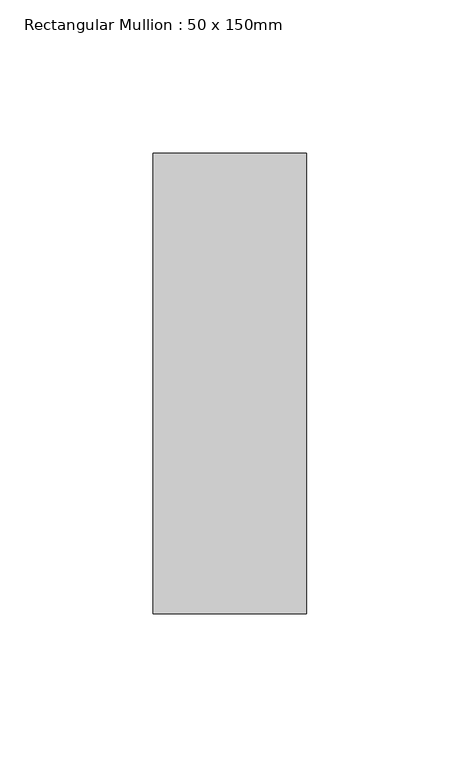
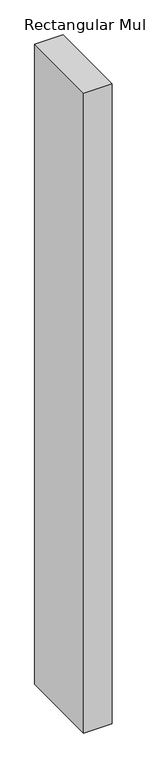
"""IFC4 building model written with IfcOpenShell, lengths in millimetres: member geometry, Rectangular Mullion : 50 x 150mm."""

import ifcopenshell
import ifcopenshell.guid

model = None  # the IFC model being written
_history = None  # IfcOwnerHistory: only IFC2X3 demands one
_inside = {}  # id of a spatial element -> (the spatial element, [elements in it])
_under = {}  # id of a project, library or spatial element -> (it, [spatial elements below it])
_declared = {}  # id of a project -> (the project, [libraries it declares])
_typed = {}  # id of a type object -> (the type object, [elements of that type])
_made_of = {}  # id of a material, layer set ... -> (it, [elements and type objects made of it])


def new_model(schema):
    """Start an empty IFC model of exactly this schema.

    Asked for "IFC4X3", IfcOpenShell would pick the latest addendum, in which some entities
    have other attributes; the version numbers below select the first issue.
    IFC2X3 requires an IfcOwnerHistory on every rooted entity: one is made here for all.
    """
    global model, _history
    if schema == "IFC4X3":
        model = ifcopenshell.file(schema_version=(4, 3, 0, 0))
    else:
        model = ifcopenshell.file(schema=schema)
    _inside.clear()
    _under.clear()
    _declared.clear()
    _typed.clear()
    _made_of.clear()
    _history = None
    if model.schema == "IFC2X3":
        org = make("IfcOrganization", Name="unknown")
        user = make(
            "IfcPersonAndOrganization",
            ThePerson=make("IfcPerson", FamilyName="unknown"),
            TheOrganization=org,
        )
        app = make(
            "IfcApplication",
            ApplicationDeveloper=org,
            Version="unknown",
            ApplicationFullName="unknown",
            ApplicationIdentifier="unknown",
        )
        _history = make(
            "IfcOwnerHistory",
            OwningUser=user,
            OwningApplication=app,
            ChangeAction="ADDED",
            CreationDate=0,
        )
    return model


def make(cls, **values):
    """One entity of the class cls with the attributes given. An attribute that is None is left unset."""
    return model.create_entity(
        cls, **{name: value for name, value in values.items() if value is not None}
    )


def rooted(cls, **values):
    """An entity with a GlobalId (a new one), such as an element, a storey or a relation."""
    return make(cls, GlobalId=ifcopenshell.guid.new(), OwnerHistory=_history, **values)


def si_unit(unit_type, name, prefix=None):
    """IfcSIUnit, for example si_unit("LENGTHUNIT", "METRE", prefix="MILLI")."""
    return make("IfcSIUnit", UnitType=unit_type, Prefix=prefix, Name=name)


def assignment(units):
    """IfcUnitAssignment: the units of a project."""
    return None if units is None else make("IfcUnitAssignment", Units=units)


def point(xyz):
    """IfcCartesianPoint."""
    return None if xyz is None else make("IfcCartesianPoint", Coordinates=xyz)


def direction(xyz):
    """IfcDirection."""
    return None if xyz is None else make("IfcDirection", DirectionRatios=xyz)


def frame(location, z_axis=None, x_axis=None):
    """IfcAxis2Placement3D, a coordinate frame: its origin and axes. An axis left out is left unset."""
    return make(
        "IfcAxis2Placement3D",
        Location=point(location),
        Axis=direction(z_axis),
        RefDirection=direction(x_axis),
    )


def origin():
    """The frame at (0, 0, 0) with its axes left unset."""
    return frame((0.0, 0.0, 0.0))


def place(relative_to, where):
    """IfcLocalPlacement: puts the frame where relative to a parent placement (None: the world)."""
    return make(
        "IfcLocalPlacement", PlacementRelTo=relative_to, RelativePlacement=where
    )


def context(
    kind, dimensions, precision=None, world=None, true_north=None, identifier=None
):
    """IfcGeometricRepresentationContext, for example the 3D "Model" context."""
    return make(
        "IfcGeometricRepresentationContext",
        ContextIdentifier=identifier,
        ContextType=kind,
        CoordinateSpaceDimension=dimensions,
        Precision=precision,
        WorldCoordinateSystem=world,
        TrueNorth=true_north,
    )


def project(units=None, contexts=None):
    """IfcProject with its units and contexts."""
    return rooted(
        "IfcProject",
        Name="project",
        RepresentationContexts=contexts,
        UnitsInContext=assignment(units),
    )


def spatial(cls, under=None, at=None, **own):
    """A site, building, storey or space (cls), placed at a placement, below another one or the project."""
    s = rooted(cls, ObjectPlacement=at, **own)
    if under is not None:
        _under.setdefault(under.id(), (under, []))[1].append(s)
    return s


def polyline(points):
    """IfcPolyline through the points."""
    return make("IfcPolyline", Points=[point(p) for p in points])


def outline(outer, holes=None, kind="AREA"):
    """IfcArbitraryClosedProfileDef: a profile drawn as a closed curve; with holes, ...WithVoids."""
    if holes is None:
        return make("IfcArbitraryClosedProfileDef", ProfileType=kind, OuterCurve=outer)
    return make(
        "IfcArbitraryProfileDefWithVoids",
        ProfileType=kind,
        OuterCurve=outer,
        InnerCurves=holes,
    )


def extrude(swept, where, along, depth):
    """IfcExtrudedAreaSolid: the profile swept, set in the frame where, extruded along a direction by depth."""
    return make(
        "IfcExtrudedAreaSolid",
        SweptArea=swept,
        Position=where,
        ExtrudedDirection=direction(along),
        Depth=depth,
    )


def shape(context_of_items, identifier, shape_type, items):
    """IfcShapeRepresentation: the items that make up one representation, for example the "Body"."""
    return make(
        "IfcShapeRepresentation",
        ContextOfItems=context_of_items,
        RepresentationIdentifier=identifier,
        RepresentationType=shape_type,
        Items=items,
    )


def source(mapping_origin, context_of_items, identifier, shape_type, items):
    """IfcRepresentationMap: a shape defined once, which mapped items show again and again."""
    return make(
        "IfcRepresentationMap",
        MappingOrigin=mapping_origin,
        MappedRepresentation=shape(context_of_items, identifier, shape_type, items),
    )


def transform(
    local_origin,
    x_axis=None,
    y_axis=None,
    z_axis=None,
    scale=None,
    scale2=None,
    scale3=None,
    uniform=True,
):
    """IfcCartesianTransformationOperator3D, or its non-uniform kind. x_axis, y_axis, z_axis: its Axis1, 2, 3."""
    if uniform:
        return make(
            "IfcCartesianTransformationOperator3D",
            Axis1=direction(x_axis),
            Axis2=direction(y_axis),
            LocalOrigin=point(local_origin),
            Scale=scale,
            Axis3=direction(z_axis),
        )
    return make(
        "IfcCartesianTransformationOperator3DnonUniform",
        Axis1=direction(x_axis),
        Axis2=direction(y_axis),
        LocalOrigin=point(local_origin),
        Scale=scale,
        Axis3=direction(z_axis),
        Scale2=scale2,
        Scale3=scale3,
    )


def mapped(mapping_source, mapping_target):
    """IfcMappedItem: shows the shape of a source again, moved by a transform."""
    return make(
        "IfcMappedItem", MappingSource=mapping_source, MappingTarget=mapping_target
    )


def made_of(thing, what):
    """Note that an element or type object is made of a material, layer set ...; save() writes the relation."""
    if what is not None:
        _made_of.setdefault(what.id(), (what, []))[1].append(thing)
    return thing


def element(
    cls,
    number,
    at=None,
    inside=None,
    cuts=None,
    type_object=None,
    material=None,
    context=None,
    identifier="Body",
    shape_type=None,
    held_by="IfcProductDefinitionShape",
    body=None,
    shapes=None,
    **own,
):
    """One element of the class cls, such as IfcWall. Its Tag is "e" and its number.

    at: its placement. inside: the storey or other place that contains it. cuts: it is an
    opening in that element (IfcRelVoidsElement). A single representation is given by context,
    identifier, shape_type and body (its items); several are given by shapes. held_by: the class
    of the entity that holds the representations. save() writes the other relations.
    """
    e = rooted(cls, Tag="e%d" % number, ObjectPlacement=at, **own)
    if body is not None:
        shapes = [shape(context, identifier, shape_type, body)]
    if shapes is not None:
        e.Representation = make(held_by, Representations=shapes)
    if inside is not None:
        _inside.setdefault(inside.id(), (inside, []))[1].append(e)
    if cuts is not None:
        rooted(
            "IfcRelVoidsElement", RelatingBuildingElement=cuts, RelatedOpeningElement=e
        )
    if type_object is not None:
        _typed.setdefault(type_object.id(), (type_object, []))[1].append(e)
    return made_of(e, material)


def aggregate(whole, parts):
    """IfcRelAggregates: a whole, such as a stair, and the parts it consists of."""
    return rooted("IfcRelAggregates", RelatingObject=whole, RelatedObjects=parts)


def save(model, path):
    """Write the relations noted so far, then the file.

    IfcRelAggregates (storeys below a building ...), IfcRelContainedInSpatialStructure (elements
    in a storey), IfcRelDefinesByType, IfcRelAssociatesMaterial and IfcRelDeclares: one each for
    every whole, place, type object, material and project.
    """
    for whole, parts in _under.values():
        aggregate(whole, parts)
    for where, things in _inside.values():
        rooted(
            "IfcRelContainedInSpatialStructure",
            RelatedElements=things,
            RelatingStructure=where,
        )
    for kind, things in _typed.values():
        rooted("IfcRelDefinesByType", RelatedObjects=things, RelatingType=kind)
    for what, things in _made_of.values():
        rooted("IfcRelAssociatesMaterial", RelatedObjects=things, RelatingMaterial=what)
    for by, libraries in _declared.values():
        rooted("IfcRelDeclares", RelatingContext=by, RelatedDefinitions=libraries)
    model.write(path)


def rectangular_mullion_50_x_150mm_3d2d9b82(model_context):
    return source(origin(), model_context, "Body", "SweptSolid", [
        extrude(outline(polyline([(0.0, 75.0), (0.0, -75.0), (-50.0, -75.0), (-50.0, 75.0), (0.0, 75.0)])), frame((0.0, 0.0, -1194.625), z_axis=(0.0, 0.0, 1.0), x_axis=(1.0, 0.0, 0.0)), (0.0, 0.0, 1.0), 1194.625),
    ])


if __name__ == "__main__":
    model = new_model("IFC4")
    model_context = context("Model", 3, world=origin())
    ifc_project = project(units=[si_unit("LENGTHUNIT", "METRE", prefix="MILLI")], contexts=[model_context])
    site = spatial("IfcSite", under=ifc_project)
    building = spatial("IfcBuilding", under=site)
    placement = place(None, origin())
    rectangular_mullion_50_x_150mm_shape = rectangular_mullion_50_x_150mm_3d2d9b82(model_context)
    element("IfcMember", 1, ObjectType="Rectangular Mullion : 50 x 150mm", at=placement, inside=building, context=model_context, shape_type="MappedRepresentation", body=[
        mapped(rectangular_mullion_50_x_150mm_shape, transform((0.0, 0.0, 0.0), x_axis=(1.0, 0.0, 0.0), y_axis=(0.0, 1.0, 0.0), z_axis=(0.0, 0.0, 1.0))),
    ])
    save(model, "model.ifc")
